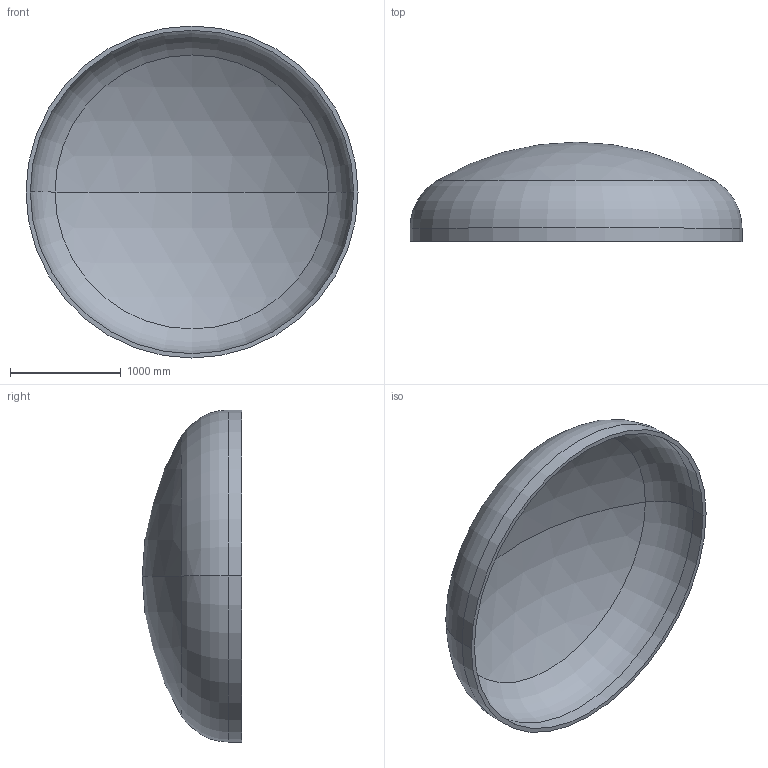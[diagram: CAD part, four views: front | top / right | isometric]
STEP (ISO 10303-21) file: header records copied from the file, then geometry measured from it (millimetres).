
FILE_DESCRIPTION (( 'STEP AP203' ), '1' );
FILE_NAME ('DIN 28013 Korbbogenform_-_Boden DIN 28013 - 3000 x 120 - I - s=39.step', '2016-07-01T17:45:25', ( '' ), ( '' ), 'SwSTEP 2.0', 'SolidWorks 2013', '' );
FILE_SCHEMA (( 'CONFIG_CONTROL_DESIGN' ));
Length unit declared in the file: millimetre
Products named in the file (1): DIN 28013 Korbbogenform_-_Boden DIN 28013 - 3000 x 120 - I - s=39
Bounding box: 3000 x 897.19 x 3000 mm (x, y, z)
Volume: 418515848.3 mm3; surface area: 21828317.2 mm2
Topology: 1 solids, 1 shells, 13 faces, 24 edges, 14 vertices
Faces by surface type: torus 4, cylinder 4, sphere 4, plane 1
Entity records: 407 total; most frequent: DIRECTION 72, CARTESIAN_POINT 52, ORIENTED_EDGE 48, AXIS2_PLACEMENT_3D 34, EDGE_CURVE 24, CIRCLE 20, EDGE_LOOP 14, VERTEX_POINT 14
